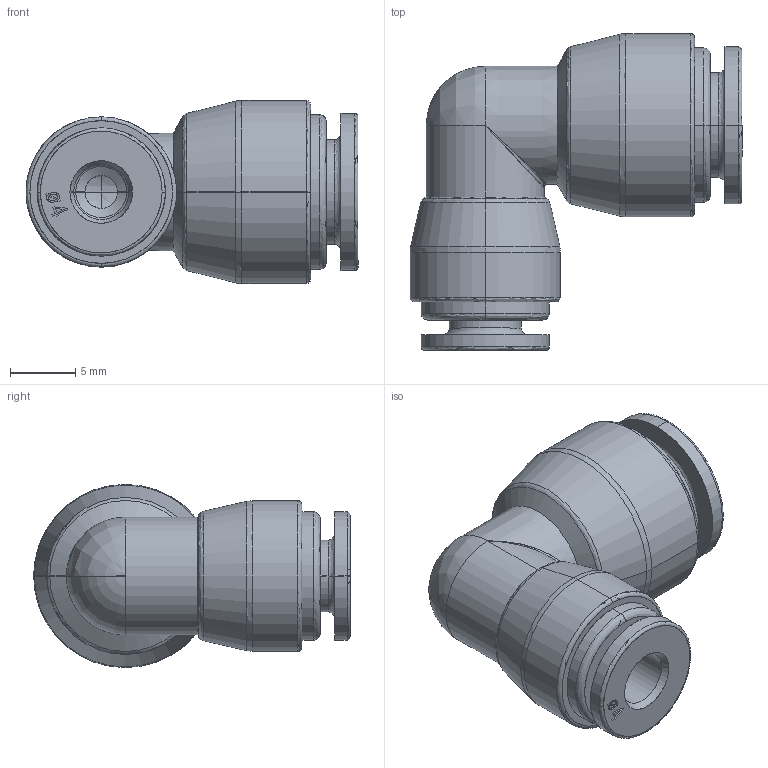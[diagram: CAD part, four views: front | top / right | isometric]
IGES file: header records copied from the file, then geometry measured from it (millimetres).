
Start section: SolidWorks IGES file using analytic representation for surfaces
Global section: file name: K:\Disegni Esecutivi\SERIE 53000\53000 Assiemi\53130\Iges\5313000014A.IGS; native system: SolidWorks 2020; preprocessor: SolidWorks 2020; author: cad06; date: 241021.085818; units: millimetre
Bounding box: 25.37 x 24.2 x 14 mm (x, y, z)
Surface area: 2272.3 mm2 (no closed solid volume)
Topology: 0 solids, 0 shells, 168 faces, 1756 edges, 1750 vertices
Faces by surface type: bspline 120, revolution 48
